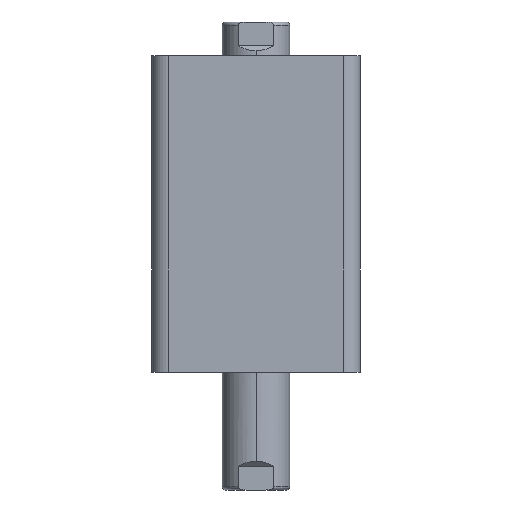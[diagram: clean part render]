
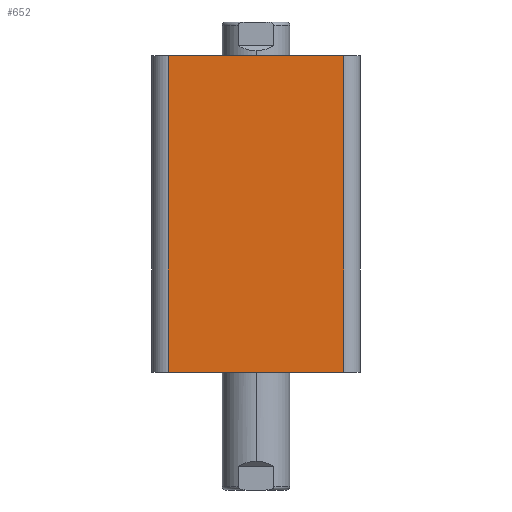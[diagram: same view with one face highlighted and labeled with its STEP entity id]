
A CAD part, left-side view. The second image highlights one B-rep face of the part: STEP entity #652.
In plain terms, the highlighted planar face has unit normal (-1, 0, 0).
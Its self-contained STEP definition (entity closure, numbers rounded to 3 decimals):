
#157 = VERTEX_POINT ( 'NONE', #978 ) ;
#159 = VERTEX_POINT ( 'NONE', #988 ) ;
#162 = VERTEX_POINT ( 'NONE', #991 ) ;
#164 = VERTEX_POINT ( 'NONE', #1005 ) ;
#322 = EDGE_LOOP ( 'NONE', ( #1272, #1273, #1274, #1275 ) ) ;
#652 = ADVANCED_FACE ( 'NONE', ( #2831 ), #2420, .F. ) ;
#978 = CARTESIAN_POINT ( 'NONE',  ( -31., 26., 0. ) ) ;
#988 = CARTESIAN_POINT ( 'NONE',  ( -31., -26., 0. ) ) ;
#991 = CARTESIAN_POINT ( 'NONE',  ( -31., -26., 94. ) ) ;
#1005 = CARTESIAN_POINT ( 'NONE',  ( -31., 26., 94. ) ) ;
#1272 = ORIENTED_EDGE ( 'NONE', *, *, #2014, .T. ) ;
#1273 = ORIENTED_EDGE ( 'NONE', *, *, #2015, .T. ) ;
#1274 = ORIENTED_EDGE ( 'NONE', *, *, #2016, .F. ) ;
#1275 = ORIENTED_EDGE ( 'NONE', *, *, #2017, .T. ) ;
#1800 = AXIS2_PLACEMENT_3D ( 'NONE', #2418, #2423, #2424 ) ;
#2014 = EDGE_CURVE ( 'NONE', #157, #159, #3041, .T. ) ;
#2015 = EDGE_CURVE ( 'NONE', #159, #162, #3037, .T. ) ;
#2016 = EDGE_CURVE ( 'NONE', #164, #162, #3045, .T. ) ;
#2017 = EDGE_CURVE ( 'NONE', #164, #157, #3047, .T. ) ;
#2418 = CARTESIAN_POINT ( 'NONE',  ( -31., 31., 94. ) ) ;
#2420 = PLANE ( 'NONE',  #1800 ) ;
#2423 = DIRECTION ( 'NONE',  ( 1., 0., 0. ) ) ;
#2424 = DIRECTION ( 'NONE',  ( 0., 1., 0. ) ) ;
#2631 = CARTESIAN_POINT ( 'NONE',  ( -31., -26., 94. ) ) ;
#2640 = CARTESIAN_POINT ( 'NONE',  ( -31., 31., 0. ) ) ;
#2641 = DIRECTION ( 'NONE',  ( 0., -1., 0. ) ) ;
#2642 = DIRECTION ( 'NONE',  ( 0., 0., 1. ) ) ;
#2643 = CARTESIAN_POINT ( 'NONE',  ( -31., 31., 94. ) ) ;
#2644 = DIRECTION ( 'NONE',  ( 0., -1., 0. ) ) ;
#2645 = CARTESIAN_POINT ( 'NONE',  ( -31., 26., 94. ) ) ;
#2646 = DIRECTION ( 'NONE',  ( 0., 0., -1. ) ) ;
#2831 = FACE_OUTER_BOUND ( 'NONE', #322, .T. ) ;
#3037 = LINE ( 'NONE', #2631, #3046 ) ;
#3041 = LINE ( 'NONE', #2640, #3044 ) ;
#3044 = VECTOR ( 'NONE', #2641, 1000. ) ;
#3045 = LINE ( 'NONE', #2643, #3048 ) ;
#3046 = VECTOR ( 'NONE', #2642, 1000. ) ;
#3047 = LINE ( 'NONE', #2645, #3050 ) ;
#3048 = VECTOR ( 'NONE', #2644, 1000. ) ;
#3050 = VECTOR ( 'NONE', #2646, 1000. ) ;
